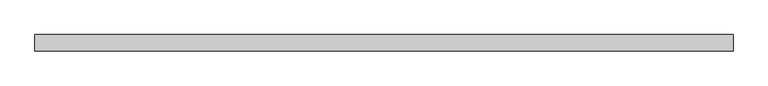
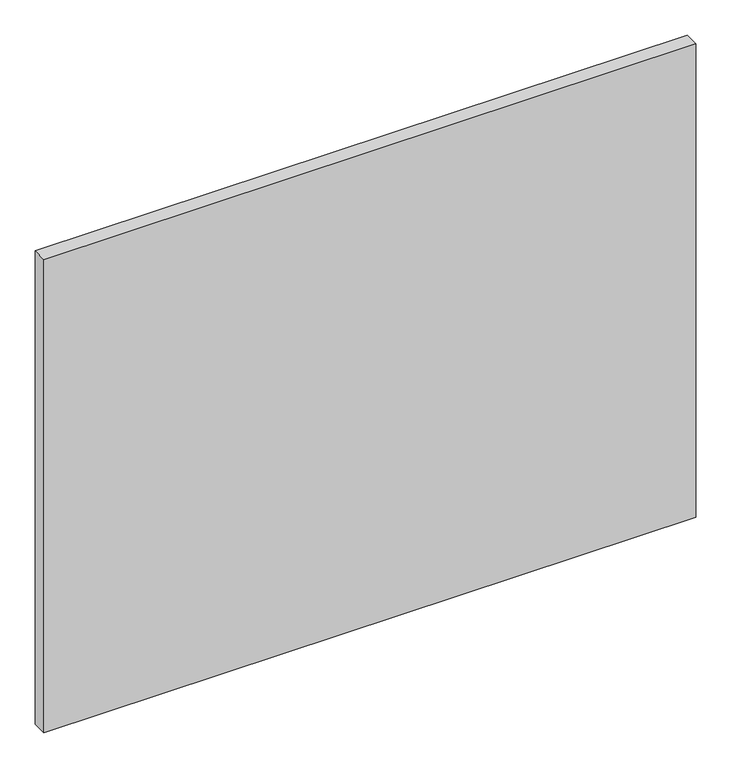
"""IFC4 building model written with IfcOpenShell, lengths in millimetres: plate geometry, 系统嵌板 : 玻璃."""

from ifc_helpers import new_model, si_unit, origin, origin_with_axes, place, context, project, spatial, polyline, outline, extrude, source, transform, mapped, element, save


def plate_1cc4df2b(model_context):
    return source(origin(), model_context, "Body", "SweptSolid", [
        extrude(outline(polyline([(537.5, -12.5), (-537.5, -12.5), (-537.5, 12.5), (537.5, 12.5), (537.5, -12.5)])), origin_with_axes(), (0.0, 0.0, 1.0), 825.0),
    ])


if __name__ == "__main__":
    model = new_model("IFC4")
    model_context = context("Model", 3, world=origin())
    ifc_project = project(units=[si_unit("LENGTHUNIT", "METRE", prefix="MILLI")], contexts=[model_context])
    site = spatial("IfcSite", under=ifc_project)
    building = spatial("IfcBuilding", under=site)
    placement = place(None, origin())
    plate_shape = plate_1cc4df2b(model_context)
    element("IfcPlate", 1, ObjectType="系统嵌板 : 玻璃", at=placement, inside=building, context=model_context, shape_type="MappedRepresentation", body=[
        mapped(plate_shape, transform((0.0, 0.0, 0.0), x_axis=(1.0, 0.0, 0.0), y_axis=(0.0, 1.0, 0.0), z_axis=(0.0, 0.0, 1.0))),
    ])
    save(model, "model.ifc")
